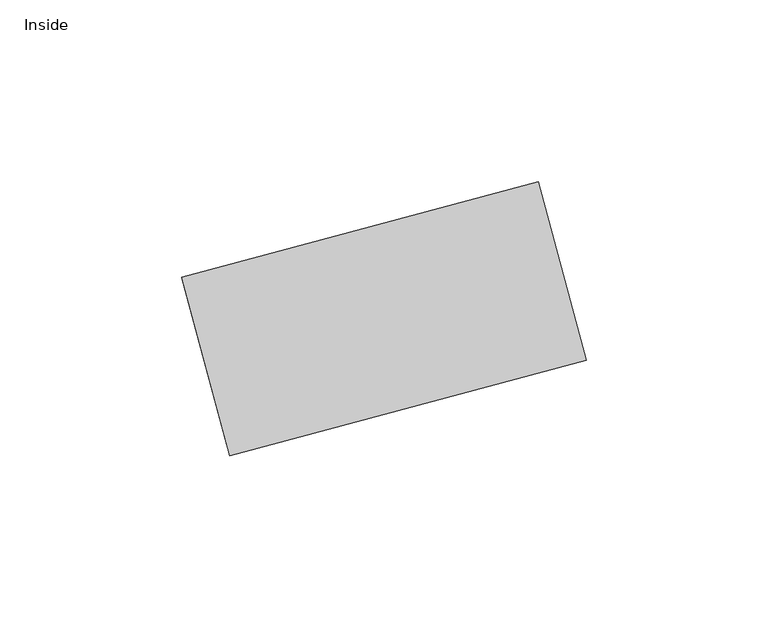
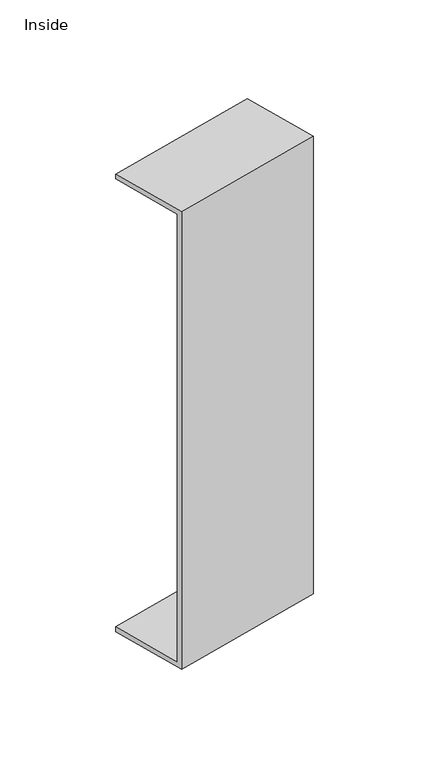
"""IFC4 building model written with IfcOpenShell, lengths in millimetres: cable carrier fitting geometry, Bend-Vertical-Cablofil-Wire_Mesh_Cable_Tray-Cablobend : Inside."""

from ifc_helpers import new_model, si_unit, frame, origin, place, context, project, spatial, polyline, outline, extrude, source, transform, mapped, element, save


def inside_6eb1aa11(model_context):
    return source(origin(), model_context, "Body", "SweptSolid", [
        extrude(outline(polyline([(-50.8, 0.0), (0.0, 0.0), (0.0, -304.8), (-50.8, -304.8), (-50.8, -301.625), (-3.175, -301.625), (-3.175, -3.175), (-50.8, -3.175), (-50.8, 0.0)])), frame((-46.249932, -23.669032, -152.4), z_axis=(0.9659258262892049, 0.2588190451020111, 0.0), x_axis=(0.2588190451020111, -0.9659258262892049, 0.0)), (0.0, 0.0, 1.0), 101.6),
    ])


if __name__ == "__main__":
    model = new_model("IFC4")
    model_context = context("Model", 3, world=origin())
    ifc_project = project(units=[si_unit("LENGTHUNIT", "METRE", prefix="MILLI")], contexts=[model_context])
    site = spatial("IfcSite", under=ifc_project)
    building = spatial("IfcBuilding", under=site)
    placement = place(None, origin())
    inside_shape = inside_6eb1aa11(model_context)
    element("IfcCableCarrierFitting", 1, ObjectType="Bend-Vertical-Cablofil-Wire_Mesh_Cable_Tray-Cablobend : Inside", at=placement, inside=building, context=model_context, shape_type="MappedRepresentation", body=[
        mapped(inside_shape, transform((0.0, 0.0, 0.0), x_axis=(1.0, 0.0, 0.0), y_axis=(0.0, 1.0, 0.0), z_axis=(0.0, 0.0, 1.0))),
    ])
    save(model, "model.ifc")
